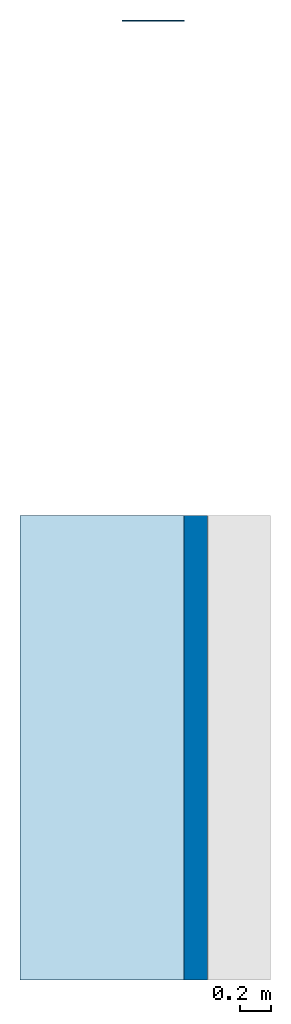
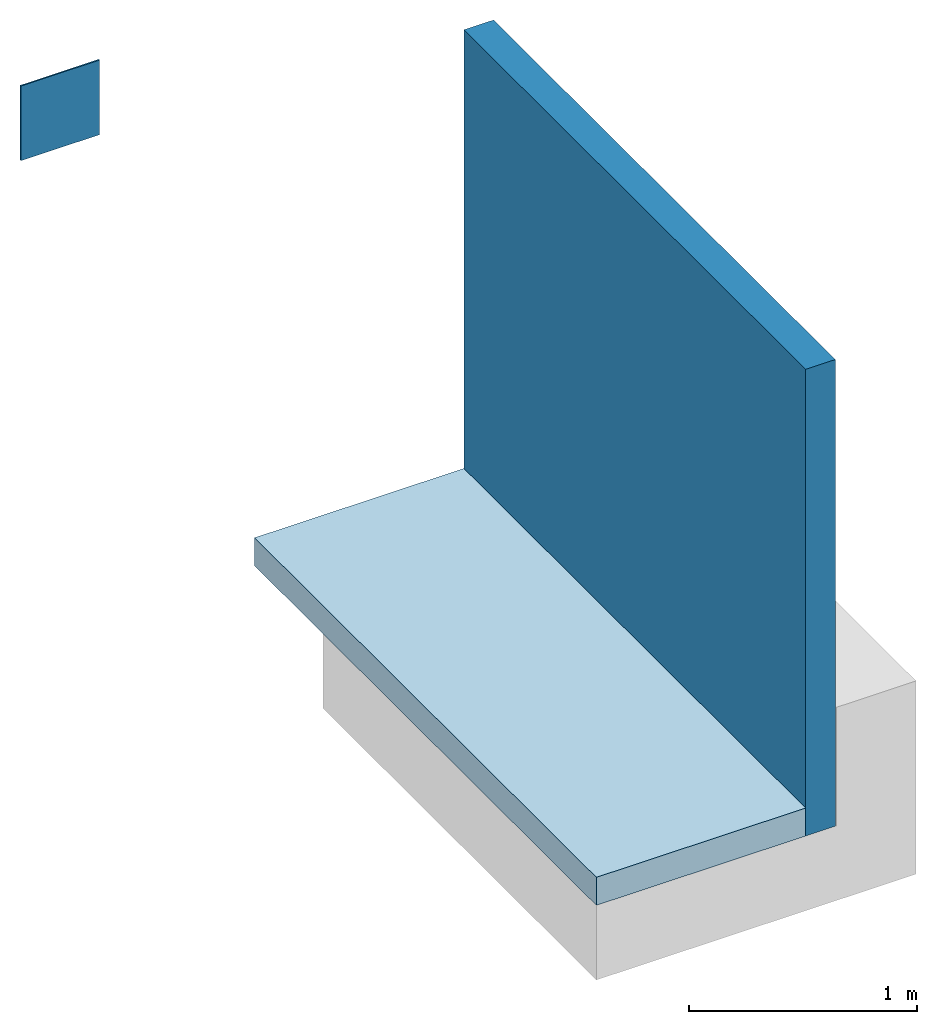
# One storey, part 1 of 2: 2 walls, 1 slab.
"""IFC2X3 building model written with IfcOpenShell, lengths in metres."""

from ifc_helpers import new_model, entity, si_unit, converted_unit, derived_unit, direction, frame, frame_2d, origin, place, context, subcontext, project, spatial, rectangle, extrude, material, layer, layer_set, layer_usage, type_object, element, save


model = new_model("IFC2X3")

# Units and contexts
model_context = context("Model", 3, precision=1e-05, world=origin(), true_north=direction((6.123031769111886e-17, 1.0)))
body_context = subcontext(model_context, "Body", "Model", "MODEL_VIEW")
ifc_project = project(units=[si_unit("LENGTHUNIT", "METRE"), si_unit("AREAUNIT", "SQUARE_METRE"), si_unit("VOLUMEUNIT", "CUBIC_METRE"), converted_unit("PLANEANGLEUNIT", "DEGREE", entity("IfcRatioMeasure", 0.017453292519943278), si_unit("PLANEANGLEUNIT", "RADIAN"), dimensions=[0, 0, 0, 0, 0, 0, 0]), si_unit("MASSUNIT", "GRAM", prefix="KILO"), derived_unit("MASSDENSITYUNIT", [(si_unit("MASSUNIT", "GRAM", prefix="KILO"), 1), (si_unit("LENGTHUNIT", "METRE"), -3)]), derived_unit("IONCONCENTRATIONUNIT", [(si_unit("MASSUNIT", "GRAM", prefix="KILO"), 1), (si_unit("LENGTHUNIT", "METRE"), -3)]), derived_unit("MOMENTOFINERTIAUNIT", [(si_unit("LENGTHUNIT", "METRE"), 4)]), si_unit("TIMEUNIT", "SECOND"), si_unit("FREQUENCYUNIT", "HERTZ"), si_unit("THERMODYNAMICTEMPERATUREUNIT", "DEGREE_CELSIUS"), derived_unit("THERMALTRANSMITTANCEUNIT", [(si_unit("MASSUNIT", "GRAM", prefix="KILO"), 1), (si_unit("THERMODYNAMICTEMPERATUREUNIT", "KELVIN"), -1), (si_unit("TIMEUNIT", "SECOND"), -3)]), derived_unit("THERMALCONDUCTANCEUNIT", [(si_unit("MASSUNIT", "GRAM", prefix="KILO"), 1), (si_unit("THERMODYNAMICTEMPERATUREUNIT", "KELVIN"), -1), (si_unit("TIMEUNIT", "SECOND"), -3), (si_unit("LENGTHUNIT", "METRE"), 1)]), derived_unit("VOLUMETRICFLOWRATEUNIT", [(si_unit("LENGTHUNIT", "METRE"), 3), (si_unit("TIMEUNIT", "SECOND"), -1)]), derived_unit("MASSFLOWRATEUNIT", [(si_unit("MASSUNIT", "GRAM", prefix="KILO"), 1), (si_unit("TIMEUNIT", "SECOND"), -1)]), derived_unit("ROTATIONALFREQUENCYUNIT", [(si_unit("TIMEUNIT", "SECOND"), -1)]), si_unit("ELECTRICCURRENTUNIT", "AMPERE"), si_unit("ELECTRICVOLTAGEUNIT", "VOLT"), si_unit("POWERUNIT", "WATT"), si_unit("FORCEUNIT", "NEWTON", prefix="KILO"), si_unit("ILLUMINANCEUNIT", "LUX"), si_unit("LUMINOUSFLUXUNIT", "LUMEN"), si_unit("LUMINOUSINTENSITYUNIT", "CANDELA"), derived_unit("USERDEFINED", [(si_unit("MASSUNIT", "GRAM", prefix="KILO"), -1), (si_unit("LENGTHUNIT", "METRE"), -2), (si_unit("TIMEUNIT", "SECOND"), 3), (si_unit("LUMINOUSFLUXUNIT", "LUMEN"), 1)]), derived_unit("USERDEFINED", [(si_unit("MASSUNIT", "GRAM", prefix="KILO"), 1), (si_unit("TIMEUNIT", "SECOND"), -3), (si_unit("LENGTHUNIT", "METRE"), 3), (si_unit("ELECTRICCURRENTUNIT", "AMPERE"), -2)]), derived_unit("SOUNDPOWERUNIT", [(si_unit("MASSUNIT", "GRAM", prefix="KILO"), 1), (si_unit("TIMEUNIT", "SECOND"), -3), (si_unit("LENGTHUNIT", "METRE"), 2)]), derived_unit("SOUNDPRESSUREUNIT", [(si_unit("MASSUNIT", "GRAM", prefix="KILO"), 1), (si_unit("LENGTHUNIT", "METRE"), -1), (si_unit("TIMEUNIT", "SECOND"), -2)]), derived_unit("LINEARVELOCITYUNIT", [(si_unit("LENGTHUNIT", "METRE"), 1), (si_unit("TIMEUNIT", "SECOND"), -1)]), si_unit("PRESSUREUNIT", "PASCAL"), derived_unit("USERDEFINED", [(si_unit("MASSUNIT", "GRAM", prefix="KILO"), 1), (si_unit("LENGTHUNIT", "METRE"), -2), (si_unit("TIMEUNIT", "SECOND"), -2)]), derived_unit("LINEARFORCEUNIT", [(si_unit("MASSUNIT", "GRAM", prefix="KILO"), 1), (si_unit("TIMEUNIT", "SECOND"), -2)]), derived_unit("PLANARFORCEUNIT", [(si_unit("MASSUNIT", "GRAM", prefix="KILO"), 1), (si_unit("LENGTHUNIT", "METRE"), -1), (si_unit("TIMEUNIT", "SECOND"), -2)]), derived_unit("SPECIFICHEATCAPACITYUNIT", [(si_unit("THERMODYNAMICTEMPERATUREUNIT", "KELVIN"), -1), (si_unit("LENGTHUNIT", "METRE"), 2), (si_unit("TIMEUNIT", "SECOND"), -2)]), derived_unit("HEATINGVALUEUNIT", [(si_unit("LENGTHUNIT", "METRE"), 2), (si_unit("TIMEUNIT", "SECOND"), -2)]), derived_unit("VAPORPERMEABILITYUNIT", [(si_unit("LENGTHUNIT", "METRE"), -1), (si_unit("TIMEUNIT", "SECOND"), 1)]), derived_unit("DYNAMICVISCOSITYUNIT", [(si_unit("MASSUNIT", "GRAM", prefix="KILO"), 1), (si_unit("TIMEUNIT", "SECOND"), -1), (si_unit("LENGTHUNIT", "METRE"), -1)]), derived_unit("THERMALEXPANSIONCOEFFICIENTUNIT", [(si_unit("THERMODYNAMICTEMPERATUREUNIT", "KELVIN"), -1)]), derived_unit("MODULUSOFELASTICITYUNIT", [(si_unit("MASSUNIT", "GRAM", prefix="KILO"), 1), (si_unit("LENGTHUNIT", "METRE"), -1), (si_unit("TIMEUNIT", "SECOND"), -2)]), derived_unit("ISOTHERMALMOISTURECAPACITYUNIT", [(si_unit("LENGTHUNIT", "METRE"), 3), (si_unit("MASSUNIT", "GRAM", prefix="KILO"), -1)]), derived_unit("MOISTUREDIFFUSIVITYUNIT", [(si_unit("TIMEUNIT", "SECOND"), -1), (si_unit("LENGTHUNIT", "METRE"), 2)])], contexts=[model_context])

# Site, building, storey
site_placement = place(None, origin())
site = spatial("IfcSite", under=ifc_project, at=site_placement, Name="Default", CompositionType="ELEMENT")
building_placement = place(site_placement, origin())
building = spatial("IfcBuilding", under=site, at=building_placement, CompositionType="ELEMENT")
storey_placement = place(building_placement, frame((0.0, 0.0, -0.0025237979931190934)))
storey = spatial("IfcBuildingStorey", under=building, at=storey_placement, Name="ARQ Térreo", CompositionType="ELEMENT", Elevation=-0.0025237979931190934)

# Slab
ifc_material_1 = material(Name="#concreto")
ifc_layer_1 = layer(ifc_material_1, 0.14999999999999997)
ifc_layer_set_1 = layer_set([ifc_layer_1], Name="Piso:Genérico 150 mm")
ifc_layer_usage_1 = layer_usage(ifc_layer_set_1, "AXIS3", "POSITIVE", 0.0)
slab_type = type_object("IfcSlabType", Name="Piso:Genérico 150 mm", PredefinedType="FLOOR", material=ifc_layer_set_1)
slab_placement = place(storey_placement, origin())
element("IfcSlab", 1, at=slab_placement, inside=storey, type_object=slab_type, material=ifc_layer_usage_1, Name="Piso:Genérico 150 mm", ObjectType="Piso:Genérico 150 mm", PredefinedType="FLOOR", context=body_context, shape_type="SweptSolid", body=[
    extrude(rectangle(XDim=3.0000000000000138, YDim=1.0608100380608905, at=frame_2d((0.0, -5.551115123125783e-17), x_axis=(1.0, 0.0))), frame((-1.0323754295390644, -1.3541299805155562, 0.14999999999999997), z_axis=(0.0, 0.0, -1.0), x_axis=(0.0, 1.0, 0.0)), (0.0, 0.0, 1.0), 0.14999999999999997),
])

# Walls
ifc_layer_2 = layer(ifc_material_1, 0.14999999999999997)
ifc_layer_set_2 = layer_set([ifc_layer_2], Name="Parede básica:Parede básica:Parede Concreto")
ifc_layer_usage_2 = layer_usage(ifc_layer_set_2, "AXIS2", "NEGATIVE", 0.07499999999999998)
wall_type_1 = type_object("IfcWallType", Name="Parede básica:Parede básica:Parede Concreto", PredefinedType="STANDARD", material=ifc_layer_set_2)
wall_1_placement = place(storey_placement, frame((-0.4269704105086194, 0.14587001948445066, 0.0), z_axis=(0.0, 0.0, 1.0), x_axis=(0.0, -1.0, 0.0)))
element("IfcWallStandardCase", 2, at=wall_1_placement, inside=storey, type_object=wall_type_1, material=ifc_layer_usage_2, Name="Parede básica:Parede Concreto", ObjectType="Parede básica:Parede Concreto", context=body_context, shape_type="SweptSolid", body=[
    extrude(rectangle(XDim=2.9999999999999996, YDim=0.15000000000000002, at=frame_2d((1.4999999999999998, 0.0), x_axis=(-1.0, 0.0))), origin(), (0.0, 0.0, 1.0), 2.4999999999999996),
])
ifc_material_2 = material(Name="#Geotextil")
ifc_layer_3 = layer(ifc_material_2, 0.003)
ifc_material_3 = material(Name="#Amphibia")
ifc_layer_4 = layer(ifc_material_3, 0.003999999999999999)
ifc_layer_set_3 = layer_set([ifc_layer_3, ifc_layer_4], Name="Parede básica:IMPV_AMPHIBIA")
ifc_layer_usage_3 = layer_usage(ifc_layer_set_3, "AXIS2", "NEGATIVE", 0.0034999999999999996)
wall_type_2 = type_object("IfcWallType", Name="Parede básica:IMPV_AMPHIBIA", PredefinedType="STANDARD", material=ifc_layer_set_3)
wall_2_placement = place(storey_placement, frame((-0.5019704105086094, 3.345870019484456, 0.0), z_axis=(0.0, 0.0, 1.0), x_axis=(-1.0, 0.0, 0.0)))
element("IfcWallStandardCase", 3, at=wall_2_placement, inside=storey, type_object=wall_type_2, material=ifc_layer_usage_3, Name="Parede básica:IMPV_VP7000", ObjectType="Parede básica:IMPV_VP7000", context=body_context, shape_type="SweptSolid", body=[
    extrude(rectangle(XDim=0.4, YDim=0.006999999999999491, at=frame_2d((0.2, -1.9081958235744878e-17), x_axis=(-1.0, 0.0))), origin(), (0.0, 0.0, 1.0), 0.4),
])

save(model, "model.ifc")
